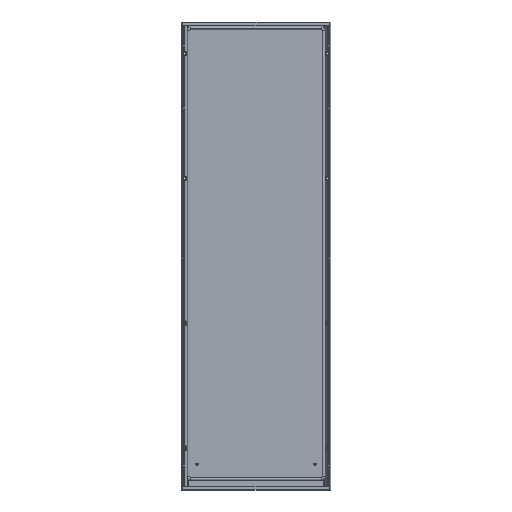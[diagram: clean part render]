
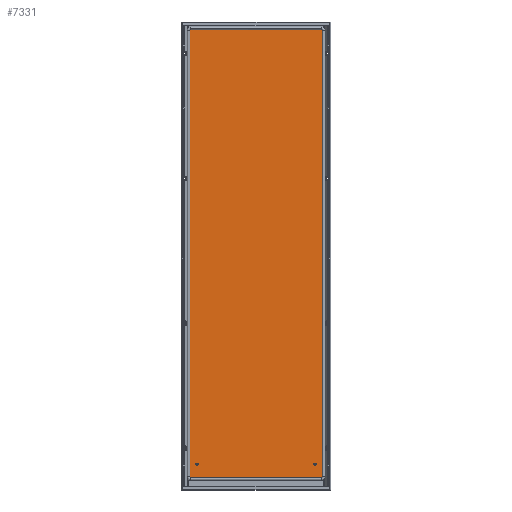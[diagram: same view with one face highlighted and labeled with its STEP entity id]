
A CAD part, top view. The second image highlights one B-rep face of the part: STEP entity #7331.
In plain terms, the highlighted planar face has unit normal (0, 0, 1).
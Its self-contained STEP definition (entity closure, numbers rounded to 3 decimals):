
#207 = CARTESIAN_POINT ( 'NONE',  ( 228.5, -791., 1. ) ) ;
#324 = CARTESIAN_POINT ( 'NONE',  ( -251.5, 857.5, 1. ) ) ;
#327 = EDGE_CURVE ( 'NONE', #6841, #5000, #7861, .T. ) ;
#384 = CARTESIAN_POINT ( 'NONE',  ( 224., -791., 1. ) ) ;
#394 = CARTESIAN_POINT ( 'NONE',  ( -284., 889., 1. ) ) ;
#400 = CARTESIAN_POINT ( 'NONE',  ( 251.5, -839.5, 1. ) ) ;
#401 = DIRECTION ( 'NONE',  ( 0., 0., 1. ) ) ;
#408 = DIRECTION ( 'NONE',  ( 0., 0., 1. ) ) ;
#525 = DIRECTION ( 'NONE',  ( -1., 0., 0. ) ) ;
#796 = EDGE_CURVE ( 'NONE', #6666, #5650, #1627, .T. ) ;
#1017 = DIRECTION ( 'NONE',  ( 1., 0., 0. ) ) ;
#1027 = DIRECTION ( 'NONE',  ( 1., 0., 0. ) ) ;
#1135 = CARTESIAN_POINT ( 'NONE',  ( 249., 860., 1. ) ) ;
#1166 = VERTEX_POINT ( 'NONE', #7080 ) ;
#1182 = CARTESIAN_POINT ( 'NONE',  ( -251.5, -839.5, 1. ) ) ;
#1228 = AXIS2_PLACEMENT_3D ( 'NONE', #1445, #5775, #2061 ) ;
#1445 = CARTESIAN_POINT ( 'NONE',  ( 249., -839.5, 1. ) ) ;
#1454 = DIRECTION ( 'NONE',  ( 0., 0., 1. ) ) ;
#1457 = ORIENTED_EDGE ( 'NONE', *, *, #2964, .F. ) ;
#1541 = ORIENTED_EDGE ( 'NONE', *, *, #4515, .F. ) ;
#1600 = FACE_BOUND ( 'NONE', #5852, .T. ) ;
#1627 = CIRCLE ( 'NONE', #7308, 4.5 ) ;
#1641 = VERTEX_POINT ( 'NONE', #5062 ) ;
#1679 = DIRECTION ( 'NONE',  ( 0., -1., 0. ) ) ;
#1801 = LINE ( 'NONE', #2843, #3421 ) ;
#1907 = CARTESIAN_POINT ( 'NONE',  ( 249., 857.5, 1. ) ) ;
#2061 = DIRECTION ( 'NONE',  ( -1., 0., 0. ) ) ;
#2063 = ORIENTED_EDGE ( 'NONE', *, *, #796, .F. ) ;
#2149 = CARTESIAN_POINT ( 'NONE',  ( 249., -842., 1. ) ) ;
#2227 = ORIENTED_EDGE ( 'NONE', *, *, #2292, .F. ) ;
#2292 = EDGE_CURVE ( 'NONE', #5000, #7309, #6502, .T. ) ;
#2307 = EDGE_CURVE ( 'NONE', #7309, #4032, #3188, .T. ) ;
#2318 = EDGE_LOOP ( 'NONE', ( #1541, #5863 ) ) ;
#2341 = DIRECTION ( 'NONE',  ( -1., 0., 0. ) ) ;
#2528 = DIRECTION ( 'NONE',  ( -1., 0., 0. ) ) ;
#2544 = AXIS2_PLACEMENT_3D ( 'NONE', #5148, #1454, #5783 ) ;
#2610 = EDGE_CURVE ( 'NONE', #8015, #1166, #6119, .T. ) ;
#2664 = LINE ( 'NONE', #1135, #4300 ) ;
#2843 = CARTESIAN_POINT ( 'NONE',  ( -251.5, -839.5, 1. ) ) ;
#2964 = EDGE_CURVE ( 'NONE', #5650, #6666, #7835, .T. ) ;
#3030 = FACE_OUTER_BOUND ( 'NONE', #3876, .T. ) ;
#3074 = CIRCLE ( 'NONE', #5298, 2.5 ) ;
#3188 = CIRCLE ( 'NONE', #4650, 2.5 ) ;
#3403 = VERTEX_POINT ( 'NONE', #5228 ) ;
#3421 = VECTOR ( 'NONE', #6572, 1000. ) ;
#3486 = ORIENTED_EDGE ( 'NONE', *, *, #2307, .F. ) ;
#3531 = VERTEX_POINT ( 'NONE', #5995 ) ;
#3543 = CARTESIAN_POINT ( 'NONE',  ( 219.5, -791., 1. ) ) ;
#3597 = CARTESIAN_POINT ( 'NONE',  ( -249., 857.5, 1. ) ) ;
#3608 = CARTESIAN_POINT ( 'NONE',  ( -249., -839.5, 1. ) ) ;
#3732 = ORIENTED_EDGE ( 'NONE', *, *, #6961, .T. ) ;
#3876 = EDGE_LOOP ( 'NONE', ( #6415, #4003, #3486, #2227, #4298, #4830, #5738, #3732 ) ) ;
#4003 = ORIENTED_EDGE ( 'NONE', *, *, #6832, .F. ) ;
#4032 = VERTEX_POINT ( 'NONE', #1182 ) ;
#4077 = CARTESIAN_POINT ( 'NONE',  ( -224., -791., 1. ) ) ;
#4090 = CARTESIAN_POINT ( 'NONE',  ( -224., -791., 1. ) ) ;
#4229 = DIRECTION ( 'NONE',  ( -1., 0., 0. ) ) ;
#4239 = DIRECTION ( 'NONE',  ( -1., 0., 0. ) ) ;
#4298 = ORIENTED_EDGE ( 'NONE', *, *, #327, .F. ) ;
#4300 = VECTOR ( 'NONE', #2341, 1000. ) ;
#4438 = CIRCLE ( 'NONE', #5760, 4.5 ) ;
#4492 = AXIS2_PLACEMENT_3D ( 'NONE', #4090, #408, #4721 ) ;
#4511 = AXIS2_PLACEMENT_3D ( 'NONE', #3597, #7985, #4229 ) ;
#4515 = EDGE_CURVE ( 'NONE', #1166, #8015, #4438, .T. ) ;
#4650 = AXIS2_PLACEMENT_3D ( 'NONE', #3608, #7993, #4239 ) ;
#4682 = FACE_BOUND ( 'NONE', #2318, .T. ) ;
#4695 = DIRECTION ( 'NONE',  ( 0., 0., 1. ) ) ;
#4702 = DIRECTION ( 'NONE',  ( 0., 0., 1. ) ) ;
#4712 = DIRECTION ( 'NONE',  ( 1., 0., 0. ) ) ;
#4721 = DIRECTION ( 'NONE',  ( 1., 0., 0. ) ) ;
#4830 = ORIENTED_EDGE ( 'NONE', *, *, #7390, .F. ) ;
#4841 = VECTOR ( 'NONE', #525, 1000. ) ;
#5000 = VERTEX_POINT ( 'NONE', #2149 ) ;
#5062 = CARTESIAN_POINT ( 'NONE',  ( 249., 860., 1. ) ) ;
#5144 = AXIS2_PLACEMENT_3D ( 'NONE', #394, #4702, #1027 ) ;
#5148 = CARTESIAN_POINT ( 'NONE',  ( 224., -791., 1. ) ) ;
#5228 = CARTESIAN_POINT ( 'NONE',  ( -249., 860., 1. ) ) ;
#5251 = EDGE_CURVE ( 'NONE', #1641, #3531, #3074, .T. ) ;
#5291 = CIRCLE ( 'NONE', #4511, 2.5 ) ;
#5298 = AXIS2_PLACEMENT_3D ( 'NONE', #1907, #6229, #2528 ) ;
#5650 = VERTEX_POINT ( 'NONE', #3543 ) ;
#5738 = ORIENTED_EDGE ( 'NONE', *, *, #5251, .F. ) ;
#5755 = VECTOR ( 'NONE', #1679, 1000. ) ;
#5760 = AXIS2_PLACEMENT_3D ( 'NONE', #4077, #401, #4712 ) ;
#5775 = DIRECTION ( 'NONE',  ( 0., 0., -1. ) ) ;
#5783 = DIRECTION ( 'NONE',  ( 1., 0., 0. ) ) ;
#5852 = EDGE_LOOP ( 'NONE', ( #1457, #2063 ) ) ;
#5863 = ORIENTED_EDGE ( 'NONE', *, *, #2610, .F. ) ;
#5995 = CARTESIAN_POINT ( 'NONE',  ( 251.5, 857.5, 1. ) ) ;
#6119 = CIRCLE ( 'NONE', #4492, 4.5 ) ;
#6155 = VERTEX_POINT ( 'NONE', #324 ) ;
#6229 = DIRECTION ( 'NONE',  ( 0., 0., -1. ) ) ;
#6401 = CARTESIAN_POINT ( 'NONE',  ( -219.5, -791., 1. ) ) ;
#6402 = EDGE_CURVE ( 'NONE', #6155, #3403, #5291, .T. ) ;
#6415 = ORIENTED_EDGE ( 'NONE', *, *, #6402, .F. ) ;
#6502 = LINE ( 'NONE', #6695, #4841 ) ;
#6564 = CARTESIAN_POINT ( 'NONE',  ( -249., -842., 1. ) ) ;
#6572 = DIRECTION ( 'NONE',  ( 0., 1., 0. ) ) ;
#6613 = CARTESIAN_POINT ( 'NONE',  ( 251.5, 857.5, 1. ) ) ;
#6666 = VERTEX_POINT ( 'NONE', #207 ) ;
#6695 = CARTESIAN_POINT ( 'NONE',  ( 249., -842., 1. ) ) ;
#6832 = EDGE_CURVE ( 'NONE', #4032, #6155, #1801, .T. ) ;
#6841 = VERTEX_POINT ( 'NONE', #400 ) ;
#6961 = EDGE_CURVE ( 'NONE', #1641, #3403, #2664, .T. ) ;
#7080 = CARTESIAN_POINT ( 'NONE',  ( -228.5, -791., 1. ) ) ;
#7196 = PLANE ( 'NONE',  #5144 ) ;
#7308 = AXIS2_PLACEMENT_3D ( 'NONE', #384, #4695, #1017 ) ;
#7309 = VERTEX_POINT ( 'NONE', #6564 ) ;
#7331 = ADVANCED_FACE ( 'NONE', ( #3030, #1600, #4682 ), #7196, .T. ) ;
#7390 = EDGE_CURVE ( 'NONE', #3531, #6841, #7435, .T. ) ;
#7435 = LINE ( 'NONE', #6613, #5755 ) ;
#7835 = CIRCLE ( 'NONE', #2544, 4.5 ) ;
#7861 = CIRCLE ( 'NONE', #1228, 2.5 ) ;
#7985 = DIRECTION ( 'NONE',  ( 0., 0., -1. ) ) ;
#7993 = DIRECTION ( 'NONE',  ( 0., 0., -1. ) ) ;
#8015 = VERTEX_POINT ( 'NONE', #6401 ) ;
